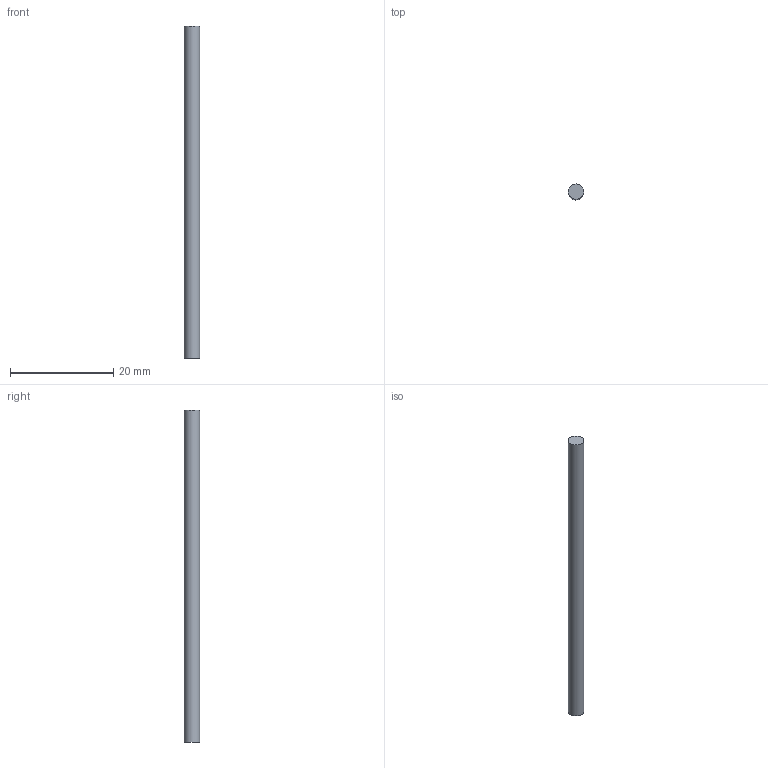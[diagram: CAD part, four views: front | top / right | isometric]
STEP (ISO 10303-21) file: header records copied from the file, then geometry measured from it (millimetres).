
FILE_DESCRIPTION(('FreeCAD Model'),'2;1');
FILE_NAME('Open CASCADE Shape Model','2026-10-30T14:45:00',('FreeCAD'),( 'FreeCAD'),'Open CASCADE STEP processor 7.8','FreeCAD','Unknown');
FILE_SCHEMA(('AUTOMOTIVE_DESIGN { 1 0 10303 214 1 1 1 1 }'));
Length unit declared in the file: millimetre
Products named in the file (1): Open CASCADE STEP translator 7.8 14
Bounding box: 3 x 3 x 64.25 mm (x, y, z)
Volume: 454.2 mm3; surface area: 619.7 mm2
Topology: 1 solids, 1 shells, 3 faces, 3 edges, 2 vertices
Faces by surface type: plane 2, cylinder 1
Full cylindrical faces by diameter (mm): 3 x1
Entity records: 69 total; most frequent: DIRECTION 13, CARTESIAN_POINT 9, AXIS2_PLACEMENT_3D 6, ORIENTED_EDGE 6, ADVANCED_FACE 3, FACE_BOUND 3, EDGE_LOOP 3, EDGE_CURVE 3
